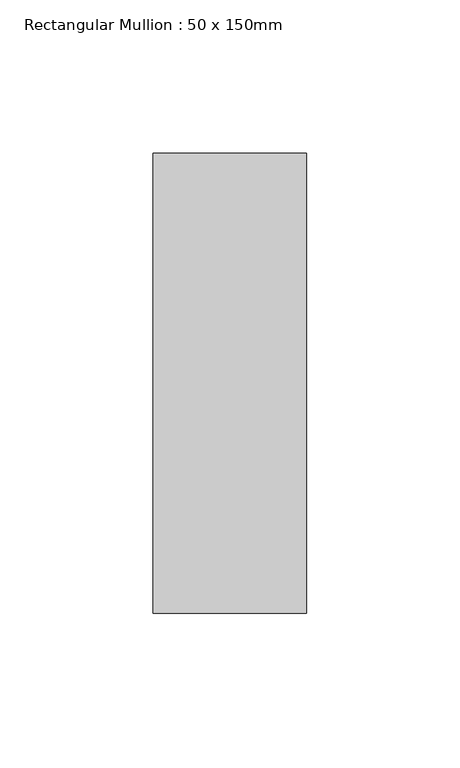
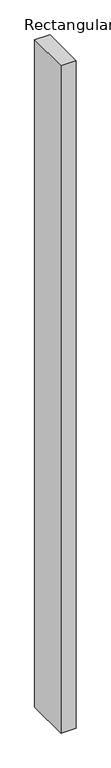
"""IFC4 building model written with IfcOpenShell, lengths in millimetres: member geometry, Rectangular Mullion : 50 x 150mm."""

import ifcopenshell
import ifcopenshell.guid

model = None  # the IFC model being written
_history = None  # IfcOwnerHistory: only IFC2X3 demands one
_inside = {}  # id of a spatial element -> (the spatial element, [elements in it])
_under = {}  # id of a project, library or spatial element -> (it, [spatial elements below it])
_declared = {}  # id of a project -> (the project, [libraries it declares])
_typed = {}  # id of a type object -> (the type object, [elements of that type])
_made_of = {}  # id of a material, layer set ... -> (it, [elements and type objects made of it])


def new_model(schema):
    """Start an empty IFC model of exactly this schema.

    Asked for "IFC4X3", IfcOpenShell would pick the latest addendum, in which some entities
    have other attributes; the version numbers below select the first issue.
    IFC2X3 requires an IfcOwnerHistory on every rooted entity: one is made here for all.
    """
    global model, _history
    if schema == "IFC4X3":
        model = ifcopenshell.file(schema_version=(4, 3, 0, 0))
    else:
        model = ifcopenshell.file(schema=schema)
    _inside.clear()
    _under.clear()
    _declared.clear()
    _typed.clear()
    _made_of.clear()
    _history = None
    if model.schema == "IFC2X3":
        org = make("IfcOrganization", Name="unknown")
        user = make(
            "IfcPersonAndOrganization",
            ThePerson=make("IfcPerson", FamilyName="unknown"),
            TheOrganization=org,
        )
        app = make(
            "IfcApplication",
            ApplicationDeveloper=org,
            Version="unknown",
            ApplicationFullName="unknown",
            ApplicationIdentifier="unknown",
        )
        _history = make(
            "IfcOwnerHistory",
            OwningUser=user,
            OwningApplication=app,
            ChangeAction="ADDED",
            CreationDate=0,
        )
    return model


def make(cls, **values):
    """One entity of the class cls with the attributes given. An attribute that is None is left unset."""
    return model.create_entity(
        cls, **{name: value for name, value in values.items() if value is not None}
    )


def rooted(cls, **values):
    """An entity with a GlobalId (a new one), such as an element, a storey or a relation."""
    return make(cls, GlobalId=ifcopenshell.guid.new(), OwnerHistory=_history, **values)


def si_unit(unit_type, name, prefix=None):
    """IfcSIUnit, for example si_unit("LENGTHUNIT", "METRE", prefix="MILLI")."""
    return make("IfcSIUnit", UnitType=unit_type, Prefix=prefix, Name=name)


def assignment(units):
    """IfcUnitAssignment: the units of a project."""
    return None if units is None else make("IfcUnitAssignment", Units=units)


def point(xyz):
    """IfcCartesianPoint."""
    return None if xyz is None else make("IfcCartesianPoint", Coordinates=xyz)


def direction(xyz):
    """IfcDirection."""
    return None if xyz is None else make("IfcDirection", DirectionRatios=xyz)


def frame(location, z_axis=None, x_axis=None):
    """IfcAxis2Placement3D, a coordinate frame: its origin and axes. An axis left out is left unset."""
    return make(
        "IfcAxis2Placement3D",
        Location=point(location),
        Axis=direction(z_axis),
        RefDirection=direction(x_axis),
    )


def origin():
    """The frame at (0, 0, 0) with its axes left unset."""
    return frame((0.0, 0.0, 0.0))


def place(relative_to, where):
    """IfcLocalPlacement: puts the frame where relative to a parent placement (None: the world)."""
    return make(
        "IfcLocalPlacement", PlacementRelTo=relative_to, RelativePlacement=where
    )


def context(
    kind, dimensions, precision=None, world=None, true_north=None, identifier=None
):
    """IfcGeometricRepresentationContext, for example the 3D "Model" context."""
    return make(
        "IfcGeometricRepresentationContext",
        ContextIdentifier=identifier,
        ContextType=kind,
        CoordinateSpaceDimension=dimensions,
        Precision=precision,
        WorldCoordinateSystem=world,
        TrueNorth=true_north,
    )


def project(units=None, contexts=None):
    """IfcProject with its units and contexts."""
    return rooted(
        "IfcProject",
        Name="project",
        RepresentationContexts=contexts,
        UnitsInContext=assignment(units),
    )


def spatial(cls, under=None, at=None, **own):
    """A site, building, storey or space (cls), placed at a placement, below another one or the project."""
    s = rooted(cls, ObjectPlacement=at, **own)
    if under is not None:
        _under.setdefault(under.id(), (under, []))[1].append(s)
    return s


def polyline(points):
    """IfcPolyline through the points."""
    return make("IfcPolyline", Points=[point(p) for p in points])


def outline(outer, holes=None, kind="AREA"):
    """IfcArbitraryClosedProfileDef: a profile drawn as a closed curve; with holes, ...WithVoids."""
    if holes is None:
        return make("IfcArbitraryClosedProfileDef", ProfileType=kind, OuterCurve=outer)
    return make(
        "IfcArbitraryProfileDefWithVoids",
        ProfileType=kind,
        OuterCurve=outer,
        InnerCurves=holes,
    )


def extrude(swept, where, along, depth):
    """IfcExtrudedAreaSolid: the profile swept, set in the frame where, extruded along a direction by depth."""
    return make(
        "IfcExtrudedAreaSolid",
        SweptArea=swept,
        Position=where,
        ExtrudedDirection=direction(along),
        Depth=depth,
    )


def shape(context_of_items, identifier, shape_type, items):
    """IfcShapeRepresentation: the items that make up one representation, for example the "Body"."""
    return make(
        "IfcShapeRepresentation",
        ContextOfItems=context_of_items,
        RepresentationIdentifier=identifier,
        RepresentationType=shape_type,
        Items=items,
    )


def source(mapping_origin, context_of_items, identifier, shape_type, items):
    """IfcRepresentationMap: a shape defined once, which mapped items show again and again."""
    return make(
        "IfcRepresentationMap",
        MappingOrigin=mapping_origin,
        MappedRepresentation=shape(context_of_items, identifier, shape_type, items),
    )


def transform(
    local_origin,
    x_axis=None,
    y_axis=None,
    z_axis=None,
    scale=None,
    scale2=None,
    scale3=None,
    uniform=True,
):
    """IfcCartesianTransformationOperator3D, or its non-uniform kind. x_axis, y_axis, z_axis: its Axis1, 2, 3."""
    if uniform:
        return make(
            "IfcCartesianTransformationOperator3D",
            Axis1=direction(x_axis),
            Axis2=direction(y_axis),
            LocalOrigin=point(local_origin),
            Scale=scale,
            Axis3=direction(z_axis),
        )
    return make(
        "IfcCartesianTransformationOperator3DnonUniform",
        Axis1=direction(x_axis),
        Axis2=direction(y_axis),
        LocalOrigin=point(local_origin),
        Scale=scale,
        Axis3=direction(z_axis),
        Scale2=scale2,
        Scale3=scale3,
    )


def mapped(mapping_source, mapping_target):
    """IfcMappedItem: shows the shape of a source again, moved by a transform."""
    return make(
        "IfcMappedItem", MappingSource=mapping_source, MappingTarget=mapping_target
    )


def made_of(thing, what):
    """Note that an element or type object is made of a material, layer set ...; save() writes the relation."""
    if what is not None:
        _made_of.setdefault(what.id(), (what, []))[1].append(thing)
    return thing


def element(
    cls,
    number,
    at=None,
    inside=None,
    cuts=None,
    type_object=None,
    material=None,
    context=None,
    identifier="Body",
    shape_type=None,
    held_by="IfcProductDefinitionShape",
    body=None,
    shapes=None,
    **own,
):
    """One element of the class cls, such as IfcWall. Its Tag is "e" and its number.

    at: its placement. inside: the storey or other place that contains it. cuts: it is an
    opening in that element (IfcRelVoidsElement). A single representation is given by context,
    identifier, shape_type and body (its items); several are given by shapes. held_by: the class
    of the entity that holds the representations. save() writes the other relations.
    """
    e = rooted(cls, Tag="e%d" % number, ObjectPlacement=at, **own)
    if body is not None:
        shapes = [shape(context, identifier, shape_type, body)]
    if shapes is not None:
        e.Representation = make(held_by, Representations=shapes)
    if inside is not None:
        _inside.setdefault(inside.id(), (inside, []))[1].append(e)
    if cuts is not None:
        rooted(
            "IfcRelVoidsElement", RelatingBuildingElement=cuts, RelatedOpeningElement=e
        )
    if type_object is not None:
        _typed.setdefault(type_object.id(), (type_object, []))[1].append(e)
    return made_of(e, material)


def aggregate(whole, parts):
    """IfcRelAggregates: a whole, such as a stair, and the parts it consists of."""
    return rooted("IfcRelAggregates", RelatingObject=whole, RelatedObjects=parts)


def save(model, path):
    """Write the relations noted so far, then the file.

    IfcRelAggregates (storeys below a building ...), IfcRelContainedInSpatialStructure (elements
    in a storey), IfcRelDefinesByType, IfcRelAssociatesMaterial and IfcRelDeclares: one each for
    every whole, place, type object, material and project.
    """
    for whole, parts in _under.values():
        aggregate(whole, parts)
    for where, things in _inside.values():
        rooted(
            "IfcRelContainedInSpatialStructure",
            RelatedElements=things,
            RelatingStructure=where,
        )
    for kind, things in _typed.values():
        rooted("IfcRelDefinesByType", RelatedObjects=things, RelatingType=kind)
    for what, things in _made_of.values():
        rooted("IfcRelAssociatesMaterial", RelatedObjects=things, RelatingMaterial=what)
    for by, libraries in _declared.values():
        rooted("IfcRelDeclares", RelatingContext=by, RelatedDefinitions=libraries)
    model.write(path)


def rectangular_mullion_50_x_150mm_8846c378(model_context):
    return source(origin(), model_context, "Body", "SweptSolid", [
        extrude(outline(polyline([(25.0, 75.0), (25.0, -75.0), (-25.0, -75.0), (-25.0, 75.0), (25.0, 75.0)])), frame((0.0, 0.0, -2330.5532991), z_axis=(0.0, 0.0, 1.0), x_axis=(1.0, 0.0, 0.0)), (0.0, 0.0, 1.0), 2330.5532991),
    ])


if __name__ == "__main__":
    model = new_model("IFC4")
    model_context = context("Model", 3, world=origin())
    ifc_project = project(units=[si_unit("LENGTHUNIT", "METRE", prefix="MILLI")], contexts=[model_context])
    site = spatial("IfcSite", under=ifc_project)
    building = spatial("IfcBuilding", under=site)
    placement = place(None, origin())
    rectangular_mullion_50_x_150mm_shape = rectangular_mullion_50_x_150mm_8846c378(model_context)
    element("IfcMember", 1, ObjectType="Rectangular Mullion : 50 x 150mm", at=placement, inside=building, context=model_context, shape_type="MappedRepresentation", body=[
        mapped(rectangular_mullion_50_x_150mm_shape, transform((0.0, 0.0, 0.0), x_axis=(1.0, 0.0, 0.0), y_axis=(0.0, 1.0, 0.0), z_axis=(0.0, 0.0, 1.0))),
    ])
    save(model, "model.ifc")
